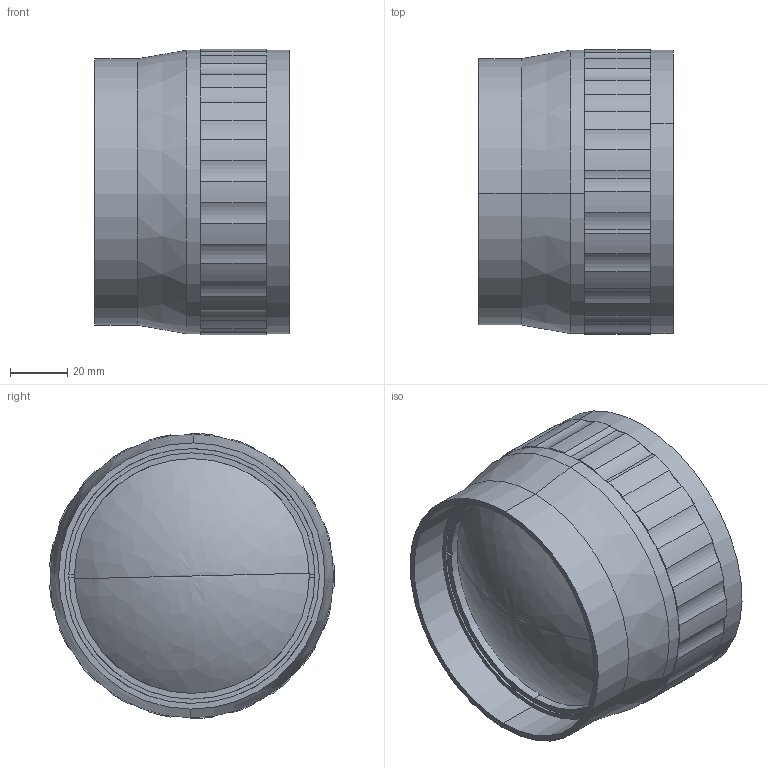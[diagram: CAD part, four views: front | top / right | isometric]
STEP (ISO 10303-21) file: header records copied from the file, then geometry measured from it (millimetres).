
FILE_DESCRIPTION (( 'STEP AP214' ), '1' );
FILE_NAME ('怮禎觕193-3.0-render.STEP', '2023-02-17T23:21:35', ( '' ), ( '' ), 'SwSTEP 2.0', 'SolidWorks 2016', '' );
FILE_SCHEMA (( 'AUTOMOTIVE_DESIGN' ));
Length unit declared in the file: millimetre
Products named in the file (11): LENS_12b-folder -2; ѹȦ; NONE_9; NONE_12; 覃蝴遠; NONE_13; 怮禎觕193-3.0-render; 调焦环压圈; 嘐隅芠; NONE_8; 噩芠
Assembly tree (10 placements, depth 3):
  NONE_9
  怮禎觕193-3.0-render
    噩芠
    ѹȦ  x2
    嘐隅芠
    覃蝴遠
    调焦环压圈
    LENS_12b-folder -2
      NONE_8
      NONE_12
      NONE_13
Bounding box: 68 x 99.45 x 99.6 mm (x, y, z)
Volume: 248891.4 mm3; surface area: 137776.3 mm2
Topology: 9 solids, 9 shells, 156 faces, 403 edges, 263 vertices
Faces by surface type: cylinder 105, plane 38, bspline 11, cone 2
Entity records: 7776 total; most frequent: CARTESIAN_POINT 3679, DIRECTION 797, ORIENTED_EDGE 718, EDGE_CURVE 359, AXIS2_PLACEMENT_3D 336, VERTEX_POINT 239, CIRCLE 190, EDGE_LOOP 166
